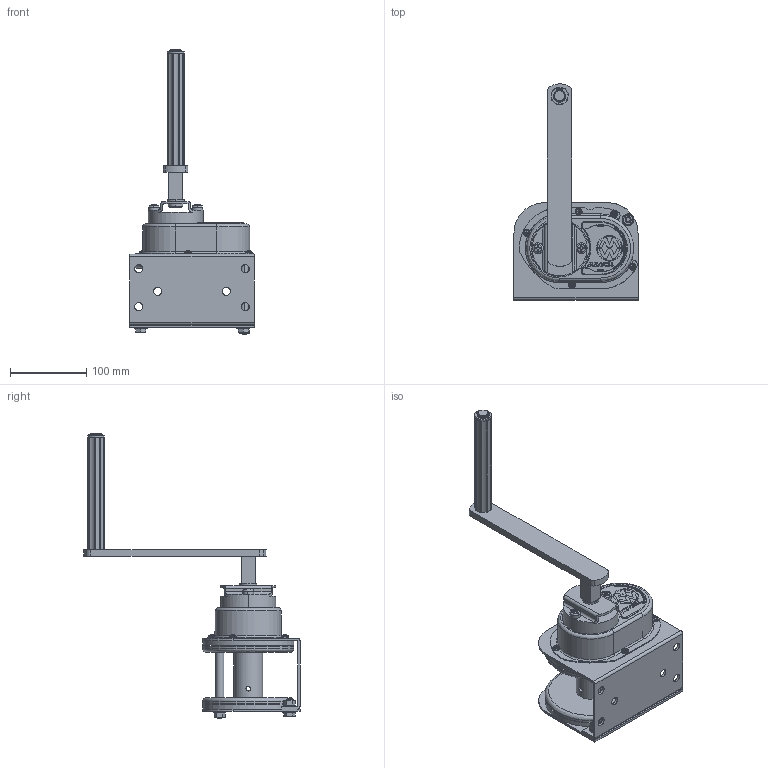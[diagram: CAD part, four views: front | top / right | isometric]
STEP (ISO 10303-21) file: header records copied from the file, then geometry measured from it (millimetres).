
FILE_DESCRIPTION( (''), '2;1');
FILE_NAME ('ESB-1LH-SI-KEN.stp','2024-01-09T09:45:02',(''),(''),'spGate 19.8.2 (****-****-****-****)','','');
FILE_SCHEMA (('AUTOMOTIVE_DESIGN'));
Length unit declared in the file: millimetre
Products named in the file (3): Assembly; ESB-1LH-SI-KEN-prt0; ESB-1LH-SI-KEN-prt1
Assembly tree (2 placements, depth 2):
  Assembly
    ESB-1LH-SI-KEN-prt0
    ESB-1LH-SI-KEN-prt1
Bounding box: 163 x 283.92 x 375.6 mm (x, y, z)
Volume: 778470.6 mm3; surface area: 304937.7 mm2
Topology: 2 solids, 2 shells, 1346 faces, 3546 edges, 2302 vertices
Faces by surface type: plane 773, cylinder 432, bspline 127, sphere 14
Entity records: 72116 total; most frequent: CARTESIAN_POINT 11071, ORIENTED_EDGE 7088, DIRECTION 6637, COLOUR_RGB 4892, PRESENTATION_STYLE_ASSIGNMENT 4892, STYLED_ITEM 4892, EDGE_CURVE 3544, DRAUGHTING_PRE_DEFINED_CURVE_FONT 3544
